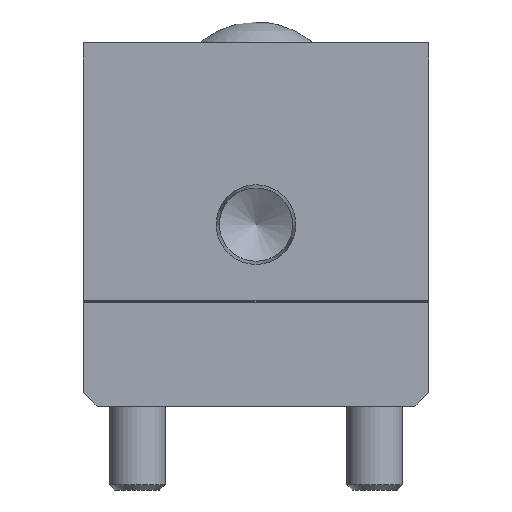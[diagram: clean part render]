
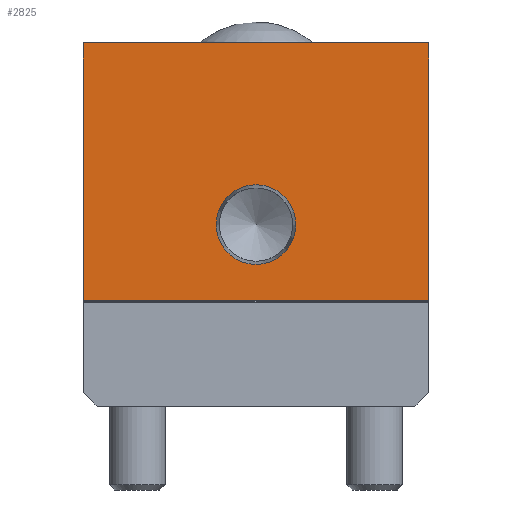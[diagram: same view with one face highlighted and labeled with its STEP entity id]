
A CAD part, front view. The second image highlights one B-rep face of the part: STEP entity #2825.
In plain terms, the highlighted planar face has unit normal (0, -1, 0).
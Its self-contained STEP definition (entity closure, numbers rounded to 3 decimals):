
#139=FACE_BOUND('',#598,.T.);
#218=CIRCLE('',#3009,5.704);
#384=FACE_OUTER_BOUND('',#597,.T.);
#597=EDGE_LOOP('',(#2054,#2055,#2056,#2057));
#598=EDGE_LOOP('',(#2058));
#871=LINE('',#4215,#1089);
#874=LINE('',#4220,#1092);
#876=LINE('',#4228,#1094);
#890=LINE('',#4264,#1108);
#1089=VECTOR('',#3409,36.9);
#1092=VECTOR('',#3414,49.5);
#1094=VECTOR('',#3422,36.9);
#1108=VECTOR('',#3466,49.5);
#1290=VERTEX_POINT('',#4212);
#1291=VERTEX_POINT('',#4214);
#1292=VERTEX_POINT('',#4218);
#1295=VERTEX_POINT('',#4226);
#1299=VERTEX_POINT('',#4240);
#1560=EDGE_CURVE('',#1291,#1290,#871,.T.);
#1563=EDGE_CURVE('',#1290,#1292,#874,.T.);
#1567=EDGE_CURVE('',#1295,#1292,#876,.T.);
#1572=EDGE_CURVE('',#1299,#1299,#218,.T.);
#1585=EDGE_CURVE('',#1295,#1291,#890,.T.);
#2054=ORIENTED_EDGE('',*,*,#1585,.T.);
#2055=ORIENTED_EDGE('',*,*,#1560,.T.);
#2056=ORIENTED_EDGE('',*,*,#1563,.T.);
#2057=ORIENTED_EDGE('',*,*,#1567,.F.);
#2058=ORIENTED_EDGE('',*,*,#1572,.T.);
#2545=PLANE('',#3042);
#2825=ADVANCED_FACE('',(#384,#139),#2545,.T.);
#3009=AXIS2_PLACEMENT_3D('',#4241,#3437,#3438);
#3042=AXIS2_PLACEMENT_3D('',#4302,#3520,#3521);
#3409=DIRECTION('',(0.,0.,1.));
#3414=DIRECTION('',(-1.,0.,0.));
#3422=DIRECTION('',(0.,0.,1.));
#3437=DIRECTION('center_axis',(0.,1.,0.));
#3438=DIRECTION('ref_axis',(1.,0.,0.));
#3466=DIRECTION('',(1.,0.,0.));
#3520=DIRECTION('center_axis',(0.,-1.,0.));
#3521=DIRECTION('ref_axis',(0.,0.,-1.));
#4212=CARTESIAN_POINT('',(24.75,0.,52.));
#4214=CARTESIAN_POINT('',(24.75,0.,15.1));
#4215=CARTESIAN_POINT('',(24.75,0.,0.));
#4218=CARTESIAN_POINT('',(-24.75,0.,52.));
#4220=CARTESIAN_POINT('',(24.75,0.,52.));
#4226=CARTESIAN_POINT('',(-24.75,0.,15.1));
#4228=CARTESIAN_POINT('',(-24.75,0.,0.));
#4240=CARTESIAN_POINT('',(5.704,0.,26.));
#4241=CARTESIAN_POINT('Origin',(0.,0.,26.));
#4264=CARTESIAN_POINT('',(24.75,0.,15.1));
#4302=CARTESIAN_POINT('Origin',(24.75,0.,0.));
